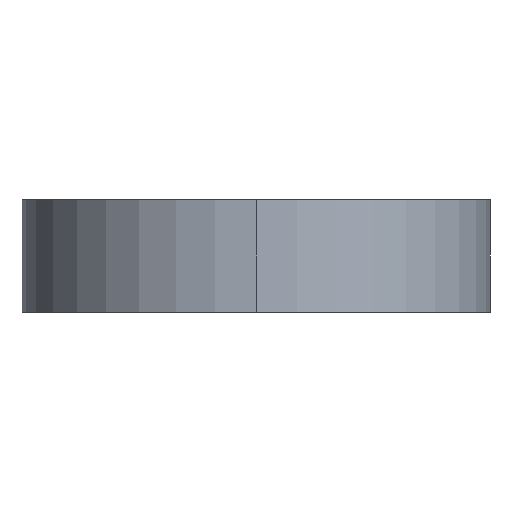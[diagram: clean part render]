
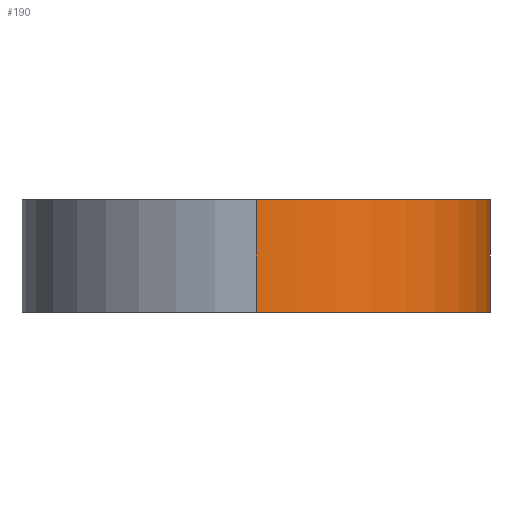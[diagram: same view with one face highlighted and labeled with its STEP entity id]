
A CAD part, left-side view. The second image highlights one B-rep face of the part: STEP entity #190.
In plain terms, the highlighted cylindrical face has radius 25 mm (diameter 50 mm), a partial arc.
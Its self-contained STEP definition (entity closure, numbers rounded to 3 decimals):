
#51 = ORIENTED_EDGE ( 'NONE', *, *, #75, .T. ) ;
#52 = VERTEX_POINT ( 'NONE', #436 ) ;
#69 = VERTEX_POINT ( 'NONE', #466 ) ;
#70 = ORIENTED_EDGE ( 'NONE', *, *, #74, .F. ) ;
#72 = EDGE_CURVE ( 'NONE', #69, #97, #473, .T. ) ;
#74 = EDGE_CURVE ( 'NONE', #52, #97, #456, .T. ) ;
#75 = EDGE_CURVE ( 'NONE', #1589, #69, #518, .T. ) ;
#76 = ORIENTED_EDGE ( 'NONE', *, *, #72, .T. ) ;
#97 = VERTEX_POINT ( 'NONE', #534 ) ;
#190 = ADVANCED_FACE ( 'NONE', ( #672 ), #725, .T. ) ;
#192 = EDGE_LOOP ( 'NONE', ( #1587, #51, #76, #70 ) ) ;
#436 = CARTESIAN_POINT ( 'NONE',  ( 0., -25., 6. ) ) ;
#454 = DIRECTION ( 'NONE',  ( 0., 0., -1. ) ) ;
#455 = VECTOR ( 'NONE', #454, 1000. ) ;
#456 = LINE ( 'NONE', #462, #455 ) ;
#459 = DIRECTION ( 'NONE',  ( 1., 0., 0. ) ) ;
#460 = DIRECTION ( 'NONE',  ( 0., 0., 1. ) ) ;
#461 = AXIS2_PLACEMENT_3D ( 'NONE', #472, #460, #459 ) ;
#462 = CARTESIAN_POINT ( 'NONE',  ( 0., -25., 6. ) ) ;
#466 = CARTESIAN_POINT ( 'NONE',  ( -25., 0., -6. ) ) ;
#472 = CARTESIAN_POINT ( 'NONE',  ( 0., 0., -6. ) ) ;
#473 = CIRCLE ( 'NONE', #461, 25. ) ;
#515 = DIRECTION ( 'NONE',  ( 0., 0., -1. ) ) ;
#516 = VECTOR ( 'NONE', #515, 1000. ) ;
#517 = CARTESIAN_POINT ( 'NONE',  ( -25., 0., 6. ) ) ;
#518 = LINE ( 'NONE', #517, #516 ) ;
#534 = CARTESIAN_POINT ( 'NONE',  ( 0., -25., -6. ) ) ;
#672 = FACE_OUTER_BOUND ( 'NONE', #192, .T. ) ;
#710 = DIRECTION ( 'NONE',  ( -1., 0., 0. ) ) ;
#715 = DIRECTION ( 'NONE',  ( 0., 0., -1. ) ) ;
#716 = CARTESIAN_POINT ( 'NONE',  ( 0., 0., 6. ) ) ;
#725 = CYLINDRICAL_SURFACE ( 'NONE', #731, 25. ) ;
#731 = AXIS2_PLACEMENT_3D ( 'NONE', #716, #715, #710 ) ;
#1042 = DIRECTION ( 'NONE',  ( 0., 0., 1. ) ) ;
#1045 = CARTESIAN_POINT ( 'NONE',  ( -25., 0., 6. ) ) ;
#1087 = DIRECTION ( 'NONE',  ( 1., 0., 0. ) ) ;
#1088 = AXIS2_PLACEMENT_3D ( 'NONE', #1094, #1042, #1087 ) ;
#1089 = CIRCLE ( 'NONE', #1088, 25. ) ;
#1094 = CARTESIAN_POINT ( 'NONE',  ( 0., 0., 6. ) ) ;
#1587 = ORIENTED_EDGE ( 'NONE', *, *, #1591, .F. ) ;
#1589 = VERTEX_POINT ( 'NONE', #1045 ) ;
#1591 = EDGE_CURVE ( 'NONE', #1589, #52, #1089, .T. ) ;
